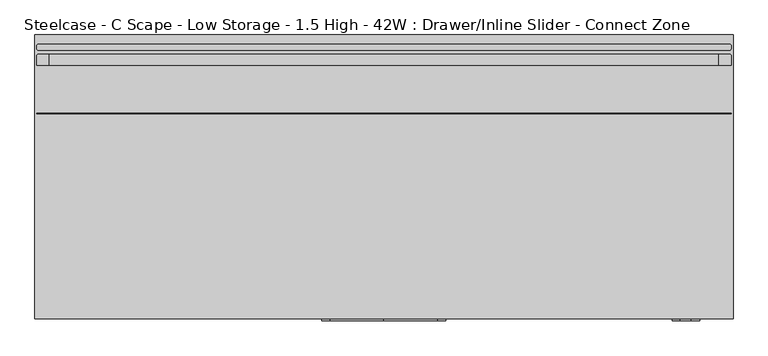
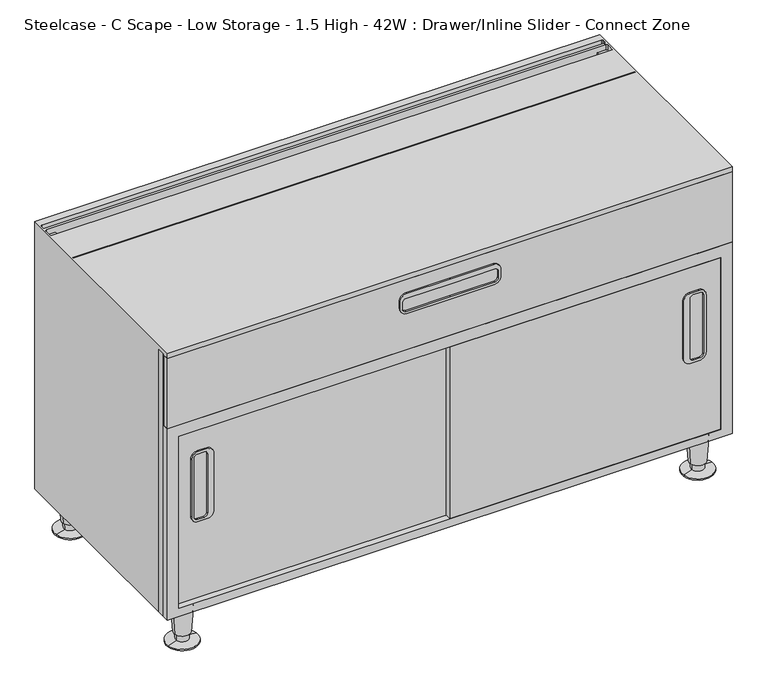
"""IFC4 building model written with IfcOpenShell, lengths in millimetres: furniture geometry, Steelcase - C Scape - Low Storage - 1.5 High - 42W : Drawer/Inline Slider - Connect Zone."""

import ifcopenshell
import ifcopenshell.guid

model = None  # the IFC model being written
_history = None  # IfcOwnerHistory: only IFC2X3 demands one
_inside = {}  # id of a spatial element -> (the spatial element, [elements in it])
_under = {}  # id of a project, library or spatial element -> (it, [spatial elements below it])
_declared = {}  # id of a project -> (the project, [libraries it declares])
_typed = {}  # id of a type object -> (the type object, [elements of that type])
_made_of = {}  # id of a material, layer set ... -> (it, [elements and type objects made of it])


def new_model(schema):
    """Start an empty IFC model of exactly this schema.

    Asked for "IFC4X3", IfcOpenShell would pick the latest addendum, in which some entities
    have other attributes; the version numbers below select the first issue.
    IFC2X3 requires an IfcOwnerHistory on every rooted entity: one is made here for all.
    """
    global model, _history
    if schema == "IFC4X3":
        model = ifcopenshell.file(schema_version=(4, 3, 0, 0))
    else:
        model = ifcopenshell.file(schema=schema)
    _inside.clear()
    _under.clear()
    _declared.clear()
    _typed.clear()
    _made_of.clear()
    _history = None
    if model.schema == "IFC2X3":
        org = make("IfcOrganization", Name="unknown")
        user = make(
            "IfcPersonAndOrganization",
            ThePerson=make("IfcPerson", FamilyName="unknown"),
            TheOrganization=org,
        )
        app = make(
            "IfcApplication",
            ApplicationDeveloper=org,
            Version="unknown",
            ApplicationFullName="unknown",
            ApplicationIdentifier="unknown",
        )
        _history = make(
            "IfcOwnerHistory",
            OwningUser=user,
            OwningApplication=app,
            ChangeAction="ADDED",
            CreationDate=0,
        )
    return model


def make(cls, **values):
    """One entity of the class cls with the attributes given. An attribute that is None is left unset."""
    return model.create_entity(
        cls, **{name: value for name, value in values.items() if value is not None}
    )


def rooted(cls, **values):
    """An entity with a GlobalId (a new one), such as an element, a storey or a relation."""
    return make(cls, GlobalId=ifcopenshell.guid.new(), OwnerHistory=_history, **values)


def si_unit(unit_type, name, prefix=None):
    """IfcSIUnit, for example si_unit("LENGTHUNIT", "METRE", prefix="MILLI")."""
    return make("IfcSIUnit", UnitType=unit_type, Prefix=prefix, Name=name)


def assignment(units):
    """IfcUnitAssignment: the units of a project."""
    return None if units is None else make("IfcUnitAssignment", Units=units)


def point(xyz):
    """IfcCartesianPoint."""
    return None if xyz is None else make("IfcCartesianPoint", Coordinates=xyz)


def direction(xyz):
    """IfcDirection."""
    return None if xyz is None else make("IfcDirection", DirectionRatios=xyz)


def frame(location, z_axis=None, x_axis=None):
    """IfcAxis2Placement3D, a coordinate frame: its origin and axes. An axis left out is left unset."""
    return make(
        "IfcAxis2Placement3D",
        Location=point(location),
        Axis=direction(z_axis),
        RefDirection=direction(x_axis),
    )


def frame_2d(location, x_axis=None):
    """IfcAxis2Placement2D, a coordinate frame in the plane: its origin and x axis."""
    return make(
        "IfcAxis2Placement2D", Location=point(location), RefDirection=direction(x_axis)
    )


def origin():
    """The frame at (0, 0, 0) with its axes left unset."""
    return frame((0.0, 0.0, 0.0))


def place(relative_to, where):
    """IfcLocalPlacement: puts the frame where relative to a parent placement (None: the world)."""
    return make(
        "IfcLocalPlacement", PlacementRelTo=relative_to, RelativePlacement=where
    )


def context(
    kind, dimensions, precision=None, world=None, true_north=None, identifier=None
):
    """IfcGeometricRepresentationContext, for example the 3D "Model" context."""
    return make(
        "IfcGeometricRepresentationContext",
        ContextIdentifier=identifier,
        ContextType=kind,
        CoordinateSpaceDimension=dimensions,
        Precision=precision,
        WorldCoordinateSystem=world,
        TrueNorth=true_north,
    )


def project(units=None, contexts=None):
    """IfcProject with its units and contexts."""
    return rooted(
        "IfcProject",
        Name="project",
        RepresentationContexts=contexts,
        UnitsInContext=assignment(units),
    )


def spatial(cls, under=None, at=None, **own):
    """A site, building, storey or space (cls), placed at a placement, below another one or the project."""
    s = rooted(cls, ObjectPlacement=at, **own)
    if under is not None:
        _under.setdefault(under.id(), (under, []))[1].append(s)
    return s


def polyline(points):
    """IfcPolyline through the points."""
    return make("IfcPolyline", Points=[point(p) for p in points])


def circle_curve(where, radius):
    """IfcCircle in the frame where."""
    return make("IfcCircle", Position=where, Radius=radius)


def trimmed(basis, trim1, trim2, sense, master):
    """IfcTrimmedCurve: the piece of a basis curve between two trims."""
    return make(
        "IfcTrimmedCurve",
        BasisCurve=basis,
        Trim1=trim1,
        Trim2=trim2,
        SenseAgreement=sense,
        MasterRepresentation=master,
    )


def segment(curve, same_sense, transition):
    """IfcCompositeCurveSegment."""
    return make(
        "IfcCompositeCurveSegment",
        Transition=transition,
        SameSense=same_sense,
        ParentCurve=curve,
    )


def composite_curve(segments, self_intersect=None):
    """IfcCompositeCurve: segments joined end to end."""
    return make("IfcCompositeCurve", Segments=segments, SelfIntersect=self_intersect)


def outline(outer, holes=None, kind="AREA"):
    """IfcArbitraryClosedProfileDef: a profile drawn as a closed curve; with holes, ...WithVoids."""
    if holes is None:
        return make("IfcArbitraryClosedProfileDef", ProfileType=kind, OuterCurve=outer)
    return make(
        "IfcArbitraryProfileDefWithVoids",
        ProfileType=kind,
        OuterCurve=outer,
        InnerCurves=holes,
    )


def extrude(swept, where, along, depth):
    """IfcExtrudedAreaSolid: the profile swept, set in the frame where, extruded along a direction by depth."""
    return make(
        "IfcExtrudedAreaSolid",
        SweptArea=swept,
        Position=where,
        ExtrudedDirection=direction(along),
        Depth=depth,
    )


def shape(context_of_items, identifier, shape_type, items):
    """IfcShapeRepresentation: the items that make up one representation, for example the "Body"."""
    return make(
        "IfcShapeRepresentation",
        ContextOfItems=context_of_items,
        RepresentationIdentifier=identifier,
        RepresentationType=shape_type,
        Items=items,
    )


def source(mapping_origin, context_of_items, identifier, shape_type, items):
    """IfcRepresentationMap: a shape defined once, which mapped items show again and again."""
    return make(
        "IfcRepresentationMap",
        MappingOrigin=mapping_origin,
        MappedRepresentation=shape(context_of_items, identifier, shape_type, items),
    )


def transform(
    local_origin,
    x_axis=None,
    y_axis=None,
    z_axis=None,
    scale=None,
    scale2=None,
    scale3=None,
    uniform=True,
):
    """IfcCartesianTransformationOperator3D, or its non-uniform kind. x_axis, y_axis, z_axis: its Axis1, 2, 3."""
    if uniform:
        return make(
            "IfcCartesianTransformationOperator3D",
            Axis1=direction(x_axis),
            Axis2=direction(y_axis),
            LocalOrigin=point(local_origin),
            Scale=scale,
            Axis3=direction(z_axis),
        )
    return make(
        "IfcCartesianTransformationOperator3DnonUniform",
        Axis1=direction(x_axis),
        Axis2=direction(y_axis),
        LocalOrigin=point(local_origin),
        Scale=scale,
        Axis3=direction(z_axis),
        Scale2=scale2,
        Scale3=scale3,
    )


def mapped(mapping_source, mapping_target):
    """IfcMappedItem: shows the shape of a source again, moved by a transform."""
    return make(
        "IfcMappedItem", MappingSource=mapping_source, MappingTarget=mapping_target
    )


def made_of(thing, what):
    """Note that an element or type object is made of a material, layer set ...; save() writes the relation."""
    if what is not None:
        _made_of.setdefault(what.id(), (what, []))[1].append(thing)
    return thing


def element(
    cls,
    number,
    at=None,
    inside=None,
    cuts=None,
    type_object=None,
    material=None,
    context=None,
    identifier="Body",
    shape_type=None,
    held_by="IfcProductDefinitionShape",
    body=None,
    shapes=None,
    **own,
):
    """One element of the class cls, such as IfcWall. Its Tag is "e" and its number.

    at: its placement. inside: the storey or other place that contains it. cuts: it is an
    opening in that element (IfcRelVoidsElement). A single representation is given by context,
    identifier, shape_type and body (its items); several are given by shapes. held_by: the class
    of the entity that holds the representations. save() writes the other relations.
    """
    e = rooted(cls, Tag="e%d" % number, ObjectPlacement=at, **own)
    if body is not None:
        shapes = [shape(context, identifier, shape_type, body)]
    if shapes is not None:
        e.Representation = make(held_by, Representations=shapes)
    if inside is not None:
        _inside.setdefault(inside.id(), (inside, []))[1].append(e)
    if cuts is not None:
        rooted(
            "IfcRelVoidsElement", RelatingBuildingElement=cuts, RelatedOpeningElement=e
        )
    if type_object is not None:
        _typed.setdefault(type_object.id(), (type_object, []))[1].append(e)
    return made_of(e, material)


def aggregate(whole, parts):
    """IfcRelAggregates: a whole, such as a stair, and the parts it consists of."""
    return rooted("IfcRelAggregates", RelatingObject=whole, RelatedObjects=parts)


def save(model, path):
    """Write the relations noted so far, then the file.

    IfcRelAggregates (storeys below a building ...), IfcRelContainedInSpatialStructure (elements
    in a storey), IfcRelDefinesByType, IfcRelAssociatesMaterial and IfcRelDeclares: one each for
    every whole, place, type object, material and project.
    """
    for whole, parts in _under.values():
        aggregate(whole, parts)
    for where, things in _inside.values():
        rooted(
            "IfcRelContainedInSpatialStructure",
            RelatedElements=things,
            RelatingStructure=where,
        )
    for kind, things in _typed.values():
        rooted("IfcRelDefinesByType", RelatedObjects=things, RelatingType=kind)
    for what, things in _made_of.values():
        rooted("IfcRelAssociatesMaterial", RelatedObjects=things, RelatingMaterial=what)
    for by, libraries in _declared.values():
        rooted("IfcRelDeclares", RelatingContext=by, RelatedDefinitions=libraries)
    model.write(path)


def plane_surface(at):
    """IfcPlane: the flat surface through the origin of the frame at, square to its z axis."""
    return make("IfcPlane", Position=at)


def cylinder_surface(at, radius):
    """IfcCylindricalSurface: all points at the distance radius from the z axis of the frame at."""
    return make("IfcCylindricalSurface", Position=at, Radius=radius)


def revolved_surface(curve, axis_point, axis_direction):
    """IfcSurfaceOfRevolution: the curve turned about the line through axis_point along axis_direction."""
    return make(
        "IfcSurfaceOfRevolution",
        SweptCurve=make("IfcArbitraryOpenProfileDef", ProfileType="CURVE", Curve=curve),
        AxisPosition=make("IfcAxis1Placement", Location=point(axis_point), Axis=direction(axis_direction)),
    )


def advanced_brep(points, edges, surfaces, faces):
    """IfcAdvancedBrep: a solid bounded by faces that lie on surfaces and meet in shared edges.

    An edge is (start, end): straight between two places in points (the first is 0);
    or (start, end, curve); or (start, end, curve, False) where it runs against its curve.
    A face is (place in surfaces, loops), or (place, loops, False) where it looks against
    its surface's normal. A loop lists edges by number (the first is 1), with a minus sign
    where the edge is run from its end to its start. The first loop is the outer one.
    """
    corners = [point(p) for p in points]
    vertices = [make("IfcVertexPoint", VertexGeometry=c) for c in corners]
    made = []
    for start, end, *more in edges:
        made.append(
            make(
                "IfcEdgeCurve",
                EdgeStart=vertices[start],
                EdgeEnd=vertices[end],
                EdgeGeometry=more[0] if more else make("IfcPolyline", Points=[corners[start], corners[end]]),
                SameSense=more[1] if len(more) > 1 else True,
            )
        )
    hull = []
    for where, loops, *sense in faces:
        bounds = []
        for j, loop in enumerate(loops):
            ring = [make("IfcOrientedEdge", EdgeElement=made[abs(k) - 1], Orientation=k > 0) for k in loop]
            bounds.append(
                make(
                    "IfcFaceOuterBound" if j == 0 else "IfcFaceBound",
                    Bound=make("IfcEdgeLoop", EdgeList=ring),
                    Orientation=True,
                )
            )
        hull.append(make("IfcAdvancedFace", Bounds=bounds, FaceSurface=surfaces[where], SameSense=sense[0] if sense else True))
    return make("IfcAdvancedBrep", Outer=make("IfcClosedShell", CfsFaces=hull))


def steelcase_c_scape_low_storage_1_5_high_42w_drawer_inline_c9c882e9(model_context):
    return source(origin(), model_context, "Body", "SolidModel", [
        extrude(outline(composite_curve([segment(polyline([(373.5963095, 972.3248301), (259.2993979, 972.3248301)]), True, "CONTINUOUS"), segment(trimmed(circle_curve(frame_2d((259.2993979, 985.0263804)), 12.7015503), [point((259.2993979, 972.3248301))], [point((246.5978477, 985.0263804))], False, "CARTESIAN"), True, "CONTINUOUS"), segment(polyline([(246.5978477, 985.0263804), (246.5978477, 1001.9160471)]), True, "CONTINUOUS"), segment(trimmed(circle_curve(frame_2d((259.2970725, 1001.9160471)), 12.6992249), [point((246.5978477, 1001.9160471))], [point((259.2970725, 1014.615272))], False, "CARTESIAN"), True, "CONTINUOUS"), segment(polyline([(259.2970725, 1014.615272), (373.5986349, 1014.615272)]), True, "CONTINUOUS"), segment(trimmed(circle_curve(frame_2d((373.5986349, 1001.9160471)), 12.6992249), [point((373.5986349, 1014.615272))], [point((386.2978598, 1001.9160471))], False, "CARTESIAN"), True, "CONTINUOUS"), segment(polyline([(386.2978598, 1001.9160471), (386.2978598, 985.0263804)]), True, "CONTINUOUS"), segment(trimmed(circle_curve(frame_2d((373.5963095, 985.0263804)), 12.7015503), [point((386.2978598, 985.0263804))], [point((373.5963095, 972.3248301))], False, "CARTESIAN"), True, "CONTINUOUS")], self_intersect=False), holes=[composite_curve([segment(polyline([(257.7449507, 984.3915354), (375.0960362, 984.3915354)]), True, "CONTINUOUS"), segment(trimmed(circle_curve(frame_2d((375.0960362, 990.7399851)), 6.3484497), [point((375.0960362, 984.3915354))], [point((381.444486, 990.7399851))], True, "CARTESIAN"), True, "CONTINUOUS"), segment(polyline([(381.444486, 990.7399851), (381.444486, 1003.4415354)]), True, "CONTINUOUS"), segment(trimmed(circle_curve(frame_2d((375.0960362, 1003.4415354)), 6.3484497), [point((381.444486, 1003.4415354))], [point((375.0960362, 1009.7899851))], True, "CARTESIAN"), True, "CONTINUOUS"), segment(polyline([(375.0960362, 1009.7899851), (257.7449507, 1009.7899851)]), True, "CONTINUOUS"), segment(trimmed(circle_curve(frame_2d((257.7449507, 1003.4415354)), 6.3484497), [point((257.7449507, 1009.7899851))], [point((251.396501, 1003.4415354))], True, "CARTESIAN"), True, "CONTINUOUS"), segment(polyline([(251.396501, 1003.4415354), (251.396501, 990.7399851)]), True, "CONTINUOUS"), segment(trimmed(circle_curve(frame_2d((257.7449507, 990.7399851)), 6.3484497), [point((251.396501, 990.7399851))], [point((257.7449507, 984.3915354))], True, "CARTESIAN"), True, "CONTINUOUS")], self_intersect=False)]), frame((0.0, -436.1123329, 0.0), z_axis=(0.0, 1.0, 0.0), x_axis=(0.0, 0.0, 1.0)), (0.0, 0.0, 1.0), 3.0423329),
        extrude(outline(composite_curve([segment(trimmed(circle_curve(frame_2d((373.5963095, 79.8686196)), 12.7015503), [point((373.5963095, 92.5701699))], [point((386.2978598, 79.8686196))], False, "CARTESIAN"), True, "CONTINUOUS"), segment(polyline([(386.2978598, 79.8686196), (386.2978598, 62.9789529)]), True, "CONTINUOUS"), segment(trimmed(circle_curve(frame_2d((373.5986349, 62.9789529)), 12.6992249), [point((386.2978598, 62.9789529))], [point((373.5986349, 50.279728))], False, "CARTESIAN"), True, "CONTINUOUS"), segment(polyline([(373.5986349, 50.279728), (259.2970725, 50.279728)]), True, "CONTINUOUS"), segment(trimmed(circle_curve(frame_2d((259.2970725, 62.9789529)), 12.6992249), [point((259.2970725, 50.279728))], [point((246.5978477, 62.9789529))], False, "CARTESIAN"), True, "CONTINUOUS"), segment(polyline([(246.5978477, 62.9789529), (246.5978477, 79.8686196)]), True, "CONTINUOUS"), segment(trimmed(circle_curve(frame_2d((259.2993979, 79.8686196)), 12.7015503), [point((246.5978477, 79.8686196))], [point((259.2993979, 92.5701699))], False, "CARTESIAN"), True, "CONTINUOUS"), segment(polyline([(259.2993979, 92.5701699), (373.5963095, 92.5701699)]), True, "CONTINUOUS")], self_intersect=False), holes=[composite_curve([segment(trimmed(circle_curve(frame_2d((257.7449507, 74.1550149)), 6.3484497), [point((257.7449507, 80.5034646))], [point((251.396501, 74.1550149))], True, "CARTESIAN"), True, "CONTINUOUS"), segment(polyline([(251.396501, 74.1550149), (251.396501, 61.4534646)]), True, "CONTINUOUS"), segment(trimmed(circle_curve(frame_2d((257.7449507, 61.4534646)), 6.3484497), [point((251.396501, 61.4534646))], [point((257.7449507, 55.1050149))], True, "CARTESIAN"), True, "CONTINUOUS"), segment(polyline([(257.7449507, 55.1050149), (375.0960362, 55.1050149)]), True, "CONTINUOUS"), segment(trimmed(circle_curve(frame_2d((375.0960362, 61.4534646)), 6.3484497), [point((375.0960362, 55.1050149))], [point((381.444486, 61.4534646))], True, "CARTESIAN"), True, "CONTINUOUS"), segment(polyline([(381.444486, 61.4534646), (381.444486, 74.1550149)]), True, "CONTINUOUS"), segment(trimmed(circle_curve(frame_2d((375.0960362, 74.1550149)), 6.3484497), [point((381.444486, 74.1550149))], [point((375.0960362, 80.5034646))], True, "CARTESIAN"), True, "CONTINUOUS"), segment(polyline([(375.0960362, 80.5034646), (257.7449507, 80.5034646)]), True, "CONTINUOUS")], self_intersect=False)]), frame((0.0, -424.6923408, 0.0), z_axis=(0.0, 1.0, 0.0), x_axis=(0.0, 0.0, 1.0)), (0.0, 0.0, 1.0), 3.048),
        extrude(outline(polyline([(76.1999955, 0.0), (76.1999955, 1065.53), (458.7875121, 1065.53), (458.7875121, 0.0), (76.1999955, 0.0)]), holes=[polyline([(92.7100024, 1043.5617285), (92.7100024, 21.3382324), (435.8005068, 21.3382324), (435.8005068, 1043.5617285), (92.7100024, 1043.5617285)])]), frame((0.0, -433.07, 0.0), z_axis=(0.0, 1.0, 0.0), x_axis=(0.0, 0.0, 1.0)), (0.0, 0.0, 1.0), 13.7215265),
        extrude(outline(polyline([(599.44, 532.2710512), (599.44, 0.0), (76.1999955, 0.0), (76.1999955, 1065.53), (599.44, 1065.53), (599.44, 532.2710512)]), holes=[polyline([(92.7100024, 1043.5617285), (92.7100024, 21.3382324), (582.93, 21.3382324), (582.93, 1043.5617285), (92.7100024, 1043.5617285)])]), frame((0.0, -419.3484735, 0.0), z_axis=(0.0, 1.0, 0.0), x_axis=(0.0, 0.0, 1.0)), (0.0, 0.0, 1.0), 14.9862946),
        extrude(outline(composite_curve([segment(trimmed(circle_curve(frame_2d((560.7050073, 450.2147442)), 12.7), [point((573.4050073, 450.2147442))], [point((560.7050073, 437.5147442))], False, "CARTESIAN"), True, "CONTINUOUS"), segment(polyline([(560.7050073, 437.5147442), (546.1000363, 437.5147442)]), True, "CONTINUOUS"), segment(trimmed(circle_curve(frame_2d((546.1000363, 450.2147442)), 12.7), [point((546.1000363, 437.5147442))], [point((533.4000363, 450.2147442))], False, "CARTESIAN"), True, "CONTINUOUS"), segment(polyline([(533.4000363, 450.2147442), (533.4000363, 532.4475), (533.4000363, 614.6802558)]), True, "CONTINUOUS"), segment(trimmed(circle_curve(frame_2d((546.1000363, 614.6802558)), 12.7), [point((533.4000363, 614.6802558))], [point((546.1000363, 627.3802558))], False, "CARTESIAN"), True, "CONTINUOUS"), segment(polyline([(546.1000363, 627.3802558), (560.7050073, 627.3802558)]), True, "CONTINUOUS"), segment(trimmed(circle_curve(frame_2d((560.7050073, 614.6802558)), 12.7), [point((560.7050073, 627.3802558))], [point((573.4050073, 614.6802558))], False, "CARTESIAN"), True, "CONTINUOUS"), segment(polyline([(573.4050073, 614.6802558), (573.4050073, 532.4475), (573.4050073, 450.2147442)]), True, "CONTINUOUS")], self_intersect=False), holes=[composite_curve([segment(trimmed(circle_curve(frame_2d((557.2760257, 448.6923565)), 6.35), [point((557.2760257, 442.3423565))], [point((563.6260257, 448.6923565))], True, "CARTESIAN"), True, "CONTINUOUS"), segment(polyline([(563.6260257, 448.6923565), (563.6260257, 532.4475), (563.6260257, 616.2026435)]), True, "CONTINUOUS"), segment(trimmed(circle_curve(frame_2d((557.2760257, 616.2026435)), 6.35), [point((563.6260257, 616.2026435))], [point((557.2760257, 622.5526435))], True, "CARTESIAN"), True, "CONTINUOUS"), segment(polyline([(557.2760257, 622.5526435), (544.5760136, 622.5526435)]), True, "CONTINUOUS"), segment(trimmed(circle_curve(frame_2d((544.5760136, 616.2026435)), 6.35), [point((544.5760136, 622.5526435))], [point((538.2260136, 616.2026435))], True, "CARTESIAN"), True, "CONTINUOUS"), segment(polyline([(538.2260136, 616.2026435), (538.2260136, 532.4475), (538.2260136, 448.6923565)]), True, "CONTINUOUS"), segment(trimmed(circle_curve(frame_2d((544.5760136, 448.6923565)), 6.35), [point((538.2260136, 448.6923565))], [point((544.5760136, 442.3423565))], True, "CARTESIAN"), True, "CONTINUOUS"), segment(polyline([(544.5760136, 442.3423565), (557.2760257, 442.3423565)]), True, "CONTINUOUS")], self_intersect=False)]), frame((0.0, -436.118, 0.0), z_axis=(0.0, 1.0, 0.0), x_axis=(0.0, 0.0, 1.0)), (0.0, 0.0, 1.0), 3.048),
        advanced_brep(
        [(1038.2598695, -31.5218435, 76.2), (1000.5981305, -37.2840847, 76.2), (1019.429, -34.4029641, 76.2), (1034.3095214, -32.1262463, 19.05), (1004.5484786, -36.6796819, 19.05), (1031.8799345, -32.4979728, 19.05), (1006.9780655, -36.3079555, 19.05), (1031.191165, -32.6033544, 5.7545598), (1007.666835, -36.2025738, 5.7545598), (1048.5400485, -29.9489775, 2.5119506), (990.3179515, -38.8569507, 2.5119506), (1048.5400485, -29.9489775, 0.0), (990.3179515, -38.8569507, 0.0), (1019.429, -34.4029641, 0.0)],
        [
            (0, 1, circle_curve(frame((1019.429, -34.4029641, 76.2), z_axis=(0.0, 0.0, 1.0), x_axis=(0.0, -1.0, 0.0)), 19.05)),
            (1, 2),
            (2, 0),
            (1, 0, circle_curve(frame((1019.429, -34.4029641, 76.2), z_axis=(0.0, 0.0, 1.0), x_axis=(0.0, -1.0, 0.0)), 19.05)),
            (3, 4, circle_curve(frame((1019.429, -34.4029641, 19.05), z_axis=(0.0, 0.0, 1.0), x_axis=(0.0, -1.0, 0.0)), 15.0536827)),
            (4, 1),
            (0, 3),
            (4, 3, circle_curve(frame((1019.429, -34.4029641, 19.05), z_axis=(0.0, 0.0, 1.0), x_axis=(0.0, -1.0, 0.0)), 15.0536827)),
            (5, 6, circle_curve(frame((1019.429, -34.4029641, 19.05), z_axis=(0.0, 0.0, 1.0), x_axis=(0.0, -1.0, 0.0)), 12.5958232)),
            (6, 4),
            (3, 5),
            (6, 5, circle_curve(frame((1019.429, -34.4029641, 19.05), z_axis=(0.0, 0.0, 1.0), x_axis=(0.0, -1.0, 0.0)), 12.5958232)),
            (7, 8, circle_curve(frame((1019.429, -34.4029641, 5.7545598), z_axis=(0.0, 0.0, 1.0), x_axis=(0.0, -1.0, 0.0)), 11.8990387)),
            (8, 6),
            (5, 7),
            (8, 7, circle_curve(frame((1019.429, -34.4029641, 5.7545598), z_axis=(0.0, 0.0, 1.0), x_axis=(0.0, -1.0, 0.0)), 11.8990387)),
            (9, 10, circle_curve(frame((1019.429, -34.4029641, 2.5119506), z_axis=(0.0, 0.0, 1.0), x_axis=(0.0, -1.0, 0.0)), 29.4498071)),
            (10, 8),
            (7, 9),
            (10, 9, circle_curve(frame((1019.429, -34.4029641, 2.5119506), z_axis=(0.0, 0.0, 1.0), x_axis=(0.0, -1.0, 0.0)), 29.4498071)),
            (11, 12, circle_curve(frame((1019.429, -34.4029641, 0.0), z_axis=(0.0, 0.0, 1.0), x_axis=(0.0, -1.0, 0.0)), 29.4498071)),
            (12, 10),
            (9, 11),
            (12, 11, circle_curve(frame((1019.429, -34.4029641, 0.0), z_axis=(0.0, 0.0, 1.0), x_axis=(0.0, -1.0, 0.0)), 29.4498071)),
            (13, 12),
            (11, 13),
        ],
        [
            plane_surface(frame((1019.429, -34.4029641, 76.2), z_axis=(0.0, 0.0, 1.0), x_axis=(0.0, -1.0, 0.0))),
            revolved_surface(polyline([(1019.429, -53.4529641, 76.2), (1019.429, -49.4566468, 19.05)]), (1019.429, -34.4029641, 25.4), (0.0, 0.0, -1.0)),
            plane_surface(frame((1019.429, -34.4029641, 19.05), z_axis=(0.0, 0.0, -1.0), x_axis=(0.0, -1.0, 0.0))),
            revolved_surface(polyline([(1019.429, -46.9987873, 19.05), (1019.429, -46.3020028, 5.7545598)]), (1019.429, -34.4029641, 25.4), (0.0, 0.0, -1.0)),
            revolved_surface(polyline([(1019.429, -46.3020028, 5.7545598), (1019.429, -63.8527712, 2.5119506)]), (1019.429, -34.4029641, 25.4), (0.0, 0.0, -1.0)),
            cylinder_surface(frame((1019.429, -34.4029641, 25.4), z_axis=(0.0, 0.0, -1.0), x_axis=(0.0, -1.0, 0.0)), 29.4498071),
            plane_surface(frame((1019.429, -34.4029641, 0.0), z_axis=(0.0, 0.0, -1.0), x_axis=(0.0, -1.0, 0.0))),
        ],
        [
            (0, [[1, 2, 3]]),
            (0, [[4, -3, -2]]),
            (1, [[5, 6, -1, 7]]),
            (1, [[8, -7, -4, -6]]),
            (2, [[9, 10, -5, 11]]),
            (2, [[12, -11, -8, -10]]),
            (3, [[13, 14, -9, 15]]),
            (3, [[16, -15, -12, -14]]),
            (4, [[17, 18, -13, 19]]),
            (4, [[20, -19, -16, -18]]),
            (5, [[21, 22, -17, 23]]),
            (5, [[24, -23, -20, -22]]),
            (6, [[25, -21, 26]]),
            (6, [[-26, -24, -25]]),
        ],
    ),
        advanced_brep(
        [(1038.2598695, -397.1702762, 76.2), (1000.5981305, -402.9325174, 76.2), (1019.429, -400.0513968, 76.2), (1034.3095214, -397.774679, 19.05), (1004.5484786, -402.3281146, 19.05), (1031.8799345, -398.1464055, 19.05), (1006.9780655, -401.9563882, 19.05), (1031.191165, -398.2517871, 5.7545598), (1007.666835, -401.8510065, 5.7545598), (1048.5400485, -395.5974102, 2.5119506), (990.3179515, -404.5053834, 2.5119506), (1048.5400485, -395.5974102, 0.0), (990.3179515, -404.5053834, 0.0), (1019.429, -400.0513968, 0.0)],
        [
            (0, 1, circle_curve(frame((1019.429, -400.0513968, 76.2), z_axis=(0.0, 0.0, 1.0), x_axis=(0.0, -1.0, 0.0)), 19.05)),
            (1, 2),
            (2, 0),
            (1, 0, circle_curve(frame((1019.429, -400.0513968, 76.2), z_axis=(0.0, 0.0, 1.0), x_axis=(0.0, -1.0, 0.0)), 19.05)),
            (3, 4, circle_curve(frame((1019.429, -400.0513968, 19.05), z_axis=(0.0, 0.0, 1.0), x_axis=(0.0, -1.0, 0.0)), 15.0536827)),
            (4, 1),
            (0, 3),
            (4, 3, circle_curve(frame((1019.429, -400.0513968, 19.05), z_axis=(0.0, 0.0, 1.0), x_axis=(0.0, -1.0, 0.0)), 15.0536827)),
            (5, 6, circle_curve(frame((1019.429, -400.0513968, 19.05), z_axis=(0.0, 0.0, 1.0), x_axis=(0.0, -1.0, 0.0)), 12.5958232)),
            (6, 4),
            (3, 5),
            (6, 5, circle_curve(frame((1019.429, -400.0513968, 19.05), z_axis=(0.0, 0.0, 1.0), x_axis=(0.0, -1.0, 0.0)), 12.5958232)),
            (7, 8, circle_curve(frame((1019.429, -400.0513968, 5.7545598), z_axis=(0.0, 0.0, 1.0), x_axis=(0.0, -1.0, 0.0)), 11.8990387)),
            (8, 6),
            (5, 7),
            (8, 7, circle_curve(frame((1019.429, -400.0513968, 5.7545598), z_axis=(0.0, 0.0, 1.0), x_axis=(0.0, -1.0, 0.0)), 11.8990387)),
            (9, 10, circle_curve(frame((1019.429, -400.0513968, 2.5119506), z_axis=(0.0, 0.0, 1.0), x_axis=(0.0, -1.0, 0.0)), 29.4498071)),
            (10, 8),
            (7, 9),
            (10, 9, circle_curve(frame((1019.429, -400.0513968, 2.5119506), z_axis=(0.0, 0.0, 1.0), x_axis=(0.0, -1.0, 0.0)), 29.4498071)),
            (11, 12, circle_curve(frame((1019.429, -400.0513968, 0.0), z_axis=(0.0, 0.0, 1.0), x_axis=(0.0, -1.0, 0.0)), 29.4498071)),
            (12, 10),
            (9, 11),
            (12, 11, circle_curve(frame((1019.429, -400.0513968, 0.0), z_axis=(0.0, 0.0, 1.0), x_axis=(0.0, -1.0, 0.0)), 29.4498071)),
            (13, 12),
            (11, 13),
        ],
        [
            plane_surface(frame((1019.429, -400.0513968, 76.2), z_axis=(0.0, 0.0, 1.0), x_axis=(0.0, -1.0, 0.0))),
            revolved_surface(polyline([(1019.429, -419.1013968, 76.2), (1019.429, -415.1050795, 19.05)]), (1019.429, -400.0513968, 25.4), (0.0, 0.0, -1.0)),
            plane_surface(frame((1019.429, -400.0513968, 19.05), z_axis=(0.0, 0.0, -1.0), x_axis=(0.0, -1.0, 0.0))),
            revolved_surface(polyline([(1019.429, -412.64722, 19.05), (1019.429, -411.9504355, 5.7545598)]), (1019.429, -400.0513968, 25.4), (0.0, 0.0, -1.0)),
            revolved_surface(polyline([(1019.429, -411.9504355, 5.7545598), (1019.429, -429.5012039, 2.5119506)]), (1019.429, -400.0513968, 25.4), (0.0, 0.0, -1.0)),
            cylinder_surface(frame((1019.429, -400.0513968, 25.4), z_axis=(0.0, 0.0, -1.0), x_axis=(0.0, -1.0, 0.0)), 29.4498071),
            plane_surface(frame((1019.429, -400.0513968, 0.0), z_axis=(0.0, 0.0, -1.0), x_axis=(0.0, -1.0, 0.0))),
        ],
        [
            (0, [[1, 2, 3]]),
            (0, [[4, -3, -2]]),
            (1, [[5, 6, -1, 7]]),
            (1, [[8, -7, -4, -6]]),
            (2, [[9, 10, -5, 11]]),
            (2, [[12, -11, -8, -10]]),
            (3, [[13, 14, -9, 15]]),
            (3, [[16, -15, -12, -14]]),
            (4, [[17, 18, -13, 19]]),
            (4, [[20, -19, -16, -18]]),
            (5, [[21, 22, -17, 23]]),
            (5, [[24, -23, -20, -22]]),
            (6, [[25, -21, 26]]),
            (6, [[-26, -24, -25]]),
        ],
    ),
        advanced_brep(
        [(65.5422821, -397.1702762, 76.2), (27.8805432, -402.9325174, 76.2), (46.7114126, -400.0513968, 76.2), (61.5919341, -397.774679, 19.05), (31.8308912, -402.3281146, 19.05), (59.1623471, -398.1464055, 19.05), (34.2604781, -401.9563882, 19.05), (58.4735776, -398.2517871, 5.7545598), (34.9492476, -401.8510065, 5.7545598), (75.8224611, -395.5974102, 2.5119506), (17.6003641, -404.5053834, 2.5119506), (75.8224611, -395.5974102, 0.0), (17.6003641, -404.5053834, 0.0), (46.7114126, -400.0513968, 0.0)],
        [
            (0, 1, circle_curve(frame((46.7114126, -400.0513968, 76.2), z_axis=(0.0, 0.0, 1.0), x_axis=(0.0, -1.0, 0.0)), 19.05)),
            (1, 2),
            (2, 0),
            (1, 0, circle_curve(frame((46.7114126, -400.0513968, 76.2), z_axis=(0.0, 0.0, 1.0), x_axis=(0.0, -1.0, 0.0)), 19.05)),
            (3, 4, circle_curve(frame((46.7114126, -400.0513968, 19.05), z_axis=(0.0, 0.0, 1.0), x_axis=(0.0, -1.0, 0.0)), 15.0536827)),
            (4, 1),
            (0, 3),
            (4, 3, circle_curve(frame((46.7114126, -400.0513968, 19.05), z_axis=(0.0, 0.0, 1.0), x_axis=(0.0, -1.0, 0.0)), 15.0536827)),
            (5, 6, circle_curve(frame((46.7114126, -400.0513968, 19.05), z_axis=(0.0, 0.0, 1.0), x_axis=(0.0, -1.0, 0.0)), 12.5958232)),
            (6, 4),
            (3, 5),
            (6, 5, circle_curve(frame((46.7114126, -400.0513968, 19.05), z_axis=(0.0, 0.0, 1.0), x_axis=(0.0, -1.0, 0.0)), 12.5958232)),
            (7, 8, circle_curve(frame((46.7114126, -400.0513968, 5.7545598), z_axis=(0.0, 0.0, 1.0), x_axis=(0.0, -1.0, 0.0)), 11.8990387)),
            (8, 6),
            (5, 7),
            (8, 7, circle_curve(frame((46.7114126, -400.0513968, 5.7545598), z_axis=(0.0, 0.0, 1.0), x_axis=(0.0, -1.0, 0.0)), 11.8990387)),
            (9, 10, circle_curve(frame((46.7114126, -400.0513968, 2.5119506), z_axis=(0.0, 0.0, 1.0), x_axis=(0.0, -1.0, 0.0)), 29.4498071)),
            (10, 8),
            (7, 9),
            (10, 9, circle_curve(frame((46.7114126, -400.0513968, 2.5119506), z_axis=(0.0, 0.0, 1.0), x_axis=(0.0, -1.0, 0.0)), 29.4498071)),
            (11, 12, circle_curve(frame((46.7114126, -400.0513968, 0.0), z_axis=(0.0, 0.0, 1.0), x_axis=(0.0, -1.0, 0.0)), 29.4498071)),
            (12, 10),
            (9, 11),
            (12, 11, circle_curve(frame((46.7114126, -400.0513968, 0.0), z_axis=(0.0, 0.0, 1.0), x_axis=(0.0, -1.0, 0.0)), 29.4498071)),
            (13, 12),
            (11, 13),
        ],
        [
            plane_surface(frame((46.7114126, -400.0513968, 76.2), z_axis=(0.0, 0.0, 1.0), x_axis=(0.0, -1.0, 0.0))),
            revolved_surface(polyline([(46.7114126, -419.1013968, 76.2), (46.7114126, -415.1050795, 19.05)]), (46.7114126, -400.0513968, 25.4), (0.0, 0.0, -1.0)),
            plane_surface(frame((46.7114126, -400.0513968, 19.05), z_axis=(0.0, 0.0, -1.0), x_axis=(0.0, -1.0, 0.0))),
            revolved_surface(polyline([(46.7114126, -412.64722, 19.05), (46.7114126, -411.9504355, 5.7545598)]), (46.7114126, -400.0513968, 25.4), (0.0, 0.0, -1.0)),
            revolved_surface(polyline([(46.7114126, -411.9504355, 5.7545598), (46.7114126, -429.5012039, 2.5119506)]), (46.7114126, -400.0513968, 25.4), (0.0, 0.0, -1.0)),
            cylinder_surface(frame((46.7114126, -400.0513968, 25.4), z_axis=(0.0, 0.0, -1.0), x_axis=(0.0, -1.0, 0.0)), 29.4498071),
            plane_surface(frame((46.7114126, -400.0513968, 0.0), z_axis=(0.0, 0.0, -1.0), x_axis=(0.0, -1.0, 0.0))),
        ],
        [
            (0, [[1, 2, 3]]),
            (0, [[4, -3, -2]]),
            (1, [[5, 6, -1, 7]]),
            (1, [[8, -7, -4, -6]]),
            (2, [[9, 10, -5, 11]]),
            (2, [[12, -11, -8, -10]]),
            (3, [[13, 14, -9, 15]]),
            (3, [[16, -15, -12, -14]]),
            (4, [[17, 18, -13, 19]]),
            (4, [[20, -19, -16, -18]]),
            (5, [[21, 22, -17, 23]]),
            (5, [[24, -23, -20, -22]]),
            (6, [[25, -21, 26]]),
            (6, [[-26, -24, -25]]),
        ],
    ),
        advanced_brep(
        [(65.5422821, -31.5218435, 76.2), (27.8805432, -37.2840847, 76.2), (46.7114126, -34.4029641, 76.2), (61.5919341, -32.1262463, 19.05), (31.8308912, -36.6796819, 19.05), (59.1623471, -32.4979728, 19.05), (34.2604781, -36.3079555, 19.05), (58.4735776, -32.6033544, 5.7545598), (34.9492476, -36.2025738, 5.7545598), (75.8224611, -29.9489775, 2.5119506), (17.6003641, -38.8569507, 2.5119506), (75.8224611, -29.9489775, 0.0), (17.6003641, -38.8569507, 0.0), (46.7114126, -34.4029641, 0.0)],
        [
            (0, 1, circle_curve(frame((46.7114126, -34.4029641, 76.2), z_axis=(0.0, 0.0, 1.0), x_axis=(0.0, -1.0, 0.0)), 19.05)),
            (1, 2),
            (2, 0),
            (1, 0, circle_curve(frame((46.7114126, -34.4029641, 76.2), z_axis=(0.0, 0.0, 1.0), x_axis=(0.0, -1.0, 0.0)), 19.05)),
            (3, 4, circle_curve(frame((46.7114126, -34.4029641, 19.05), z_axis=(0.0, 0.0, 1.0), x_axis=(0.0, -1.0, 0.0)), 15.0536827)),
            (4, 1),
            (0, 3),
            (4, 3, circle_curve(frame((46.7114126, -34.4029641, 19.05), z_axis=(0.0, 0.0, 1.0), x_axis=(0.0, -1.0, 0.0)), 15.0536827)),
            (5, 6, circle_curve(frame((46.7114126, -34.4029641, 19.05), z_axis=(0.0, 0.0, 1.0), x_axis=(0.0, -1.0, 0.0)), 12.5958232)),
            (6, 4),
            (3, 5),
            (6, 5, circle_curve(frame((46.7114126, -34.4029641, 19.05), z_axis=(0.0, 0.0, 1.0), x_axis=(0.0, -1.0, 0.0)), 12.5958232)),
            (7, 8, circle_curve(frame((46.7114126, -34.4029641, 5.7545598), z_axis=(0.0, 0.0, 1.0), x_axis=(0.0, -1.0, 0.0)), 11.8990387)),
            (8, 6),
            (5, 7),
            (8, 7, circle_curve(frame((46.7114126, -34.4029641, 5.7545598), z_axis=(0.0, 0.0, 1.0), x_axis=(0.0, -1.0, 0.0)), 11.8990387)),
            (9, 10, circle_curve(frame((46.7114126, -34.4029641, 2.5119506), z_axis=(0.0, 0.0, 1.0), x_axis=(0.0, -1.0, 0.0)), 29.4498071)),
            (10, 8),
            (7, 9),
            (10, 9, circle_curve(frame((46.7114126, -34.4029641, 2.5119506), z_axis=(0.0, 0.0, 1.0), x_axis=(0.0, -1.0, 0.0)), 29.4498071)),
            (11, 12, circle_curve(frame((46.7114126, -34.4029641, 0.0), z_axis=(0.0, 0.0, 1.0), x_axis=(0.0, -1.0, 0.0)), 29.4498071)),
            (12, 10),
            (9, 11),
            (12, 11, circle_curve(frame((46.7114126, -34.4029641, 0.0), z_axis=(0.0, 0.0, 1.0), x_axis=(0.0, -1.0, 0.0)), 29.4498071)),
            (13, 12),
            (11, 13),
        ],
        [
            plane_surface(frame((46.7114126, -34.4029641, 76.2), z_axis=(0.0, 0.0, 1.0), x_axis=(0.0, -1.0, 0.0))),
            revolved_surface(polyline([(46.7114126, -53.4529641, 76.2), (46.7114126, -49.4566468, 19.05)]), (46.7114126, -34.4029641, 25.4), (0.0, 0.0, -1.0)),
            plane_surface(frame((46.7114126, -34.4029641, 19.05), z_axis=(0.0, 0.0, -1.0), x_axis=(0.0, -1.0, 0.0))),
            revolved_surface(polyline([(46.7114126, -46.9987873, 19.05), (46.7114126, -46.3020028, 5.7545598)]), (46.7114126, -34.4029641, 25.4), (0.0, 0.0, -1.0)),
            revolved_surface(polyline([(46.7114126, -46.3020028, 5.7545598), (46.7114126, -63.8527712, 2.5119506)]), (46.7114126, -34.4029641, 25.4), (0.0, 0.0, -1.0)),
            cylinder_surface(frame((46.7114126, -34.4029641, 25.4), z_axis=(0.0, 0.0, -1.0), x_axis=(0.0, -1.0, 0.0)), 29.4498071),
            plane_surface(frame((46.7114126, -34.4029641, 0.0), z_axis=(0.0, 0.0, -1.0), x_axis=(0.0, -1.0, 0.0))),
        ],
        [
            (0, [[1, 2, 3]]),
            (0, [[4, -3, -2]]),
            (1, [[5, 6, -1, 7]]),
            (1, [[8, -7, -4, -6]]),
            (2, [[9, 10, -5, 11]]),
            (2, [[12, -11, -8, -10]]),
            (3, [[13, 14, -9, 15]]),
            (3, [[16, -15, -12, -14]]),
            (4, [[17, 18, -13, 19]]),
            (4, [[20, -19, -16, -18]]),
            (5, [[21, 22, -17, 23]]),
            (5, [[24, -23, -20, -22]]),
            (6, [[25, -21, 26]]),
            (6, [[-26, -24, -25]]),
        ],
    ),
        advanced_brep(
        [(1062.7272317, -120.6444193, 609.6), (1062.7272317, -119.3775195, 609.6), (1062.7272317, -119.3775195, 599.44), (1062.7272317, -120.6444193, 599.44), (1062.7272317, -46.4703418, 609.6), (1062.7272317, -32.274699, 609.6), (1062.7272317, -32.274699, 599.44), (1062.7272317, -46.4703418, 599.44), (1062.7272317, -20.3138654, 609.6), (1062.7272317, -17.0388453, 609.6), (1062.7272317, -17.0388453, 599.44), (1062.7272317, -20.3138654, 599.44), (1065.53, 0.0055807, 609.6), (1065.53, -433.07, 609.6), (1065.53, -433.07, 599.44), (1065.53, -404.362179, 599.44), (1065.53, -404.362179, 76.2), (1065.53, 0.0055807, 76.2), (0.0, -433.07, 609.6), (-0.012551, 0.0055807, 609.6), (1060.0308823, -29.5783496, 609.6), (2.7826272, -46.4703418, 609.6), (2.7826272, -32.0458511, 609.6), (5.2501287, -29.5783496, 609.6), (1059.7507358, -23.2903613, 609.6), (5.5670648, -23.2903613, 609.6), (2.7826272, -20.5059237, 609.6), (2.7826272, -17.0388453, 609.6), (5.4794022, -14.3420703, 609.6), (1060.0304567, -14.3420703, 609.6), (2.7826272, -119.3775195, 609.6), (2.7826272, -120.6444193, 609.6), (0.0, 0.0055807, 76.2), (648.0775189, 0.0055807, 466.2677968), (416.8174811, 0.0055807, 466.2677968), (416.8174811, 0.0055807, 432.6382043), (532.4475, 0.0055807, 432.6382043), (648.0775189, 0.0055807, 432.6382043), (648.0775189, -9.5194193, 466.2677968), (416.8174811, -9.5194193, 466.2677968), (648.0775189, -9.5194193, 435.8005068), (416.8174811, -9.5194193, 435.8005068), (5.2501287, -29.5783496, 599.44), (21.3382324, -29.5783496, 599.44), (21.3382324, -29.5783496, 458.7875121), (1043.5617285, -29.5783496, 458.7875121), (1043.5617285, -29.5783496, 599.44), (1060.0308823, -29.5783496, 599.44), (1043.5617285, -119.3775195, 599.44), (21.3382324, -119.3775195, 599.44), (21.3382324, -46.4703418, 599.44), (1043.5617285, -46.4703418, 599.44), (1059.7507358, -23.2903613, 599.44), (5.5670648, -23.2903613, 599.44), (2.7826272, -20.5059237, 599.44), (2.7826272, -32.0458511, 599.44), (2.7826272, -46.4703418, 599.44), (2.7826272, -119.3775195, 599.44), (5.4794022, -14.3420703, 599.44), (1060.0304567, -14.3420703, 599.44), (2.7826272, -17.0388453, 599.44), (21.3382324, -120.6444193, 599.44), (2.7826272, -120.6444193, 599.44), (1043.5617285, -120.6444193, 599.44), (21.3382324, -404.362179, 92.7100024), (1043.5617285, -404.362179, 92.7100024), (1043.5617285, -9.5194193, 92.7100024), (21.3382324, -9.5194193, 92.7100024), (0.0, -404.362179, 76.2), (21.3382324, -404.362179, 458.7875121), (21.3382324, -404.362179, 599.44), (0.0, -404.362179, 599.44), (1043.5617285, -404.362179, 599.44), (1043.5617285, -404.362179, 458.7875121), (21.3382324, -404.362179, 435.8005068), (1043.5617285, -404.362179, 435.8005068), (0.0, -433.07, 599.44), (21.3382324, -126.9863574, 599.44), (1043.5617285, -126.9863574, 599.44), (21.3382324, -126.9863574, 458.7875121), (1043.5617285, -126.9863574, 458.7875121), (1043.5617285, -120.6444193, 458.7875121), (21.3382324, -120.6444193, 458.7875121), (21.3382324, -9.5194193, 435.8005068), (1043.5617285, -9.5194193, 435.8005068), (648.0775189, -9.5194193, 432.6382043), (532.4475, -9.5194193, 432.6382043), (416.8174811, -9.5194193, 432.6382043)],
        [
            (0, 1),
            (1, 2),
            (2, 3),
            (3, 0),
            (4, 5),
            (5, 6),
            (6, 7),
            (7, 4),
            (8, 9),
            (9, 10),
            (10, 11),
            (11, 8),
            (12, 13),
            (13, 14),
            (14, 15),
            (15, 16),
            (16, 17),
            (17, 12),
            (18, 13),
            (12, 19),
            (19, 18),
            (20, 5, circle_curve(frame((1060.0308823, -32.274699, 609.6), z_axis=(0.0, 0.0, -1.0), x_axis=(1.0, 0.0, 0.0)), 2.6963494)),
            (4, 21),
            (21, 22),
            (22, 23, circle_curve(frame((5.2501287, -32.0458511, 609.6), z_axis=(0.0, 0.0, -1.0), x_axis=(1.0, 0.0, 0.0)), 2.4675015)),
            (23, 20),
            (8, 24, circle_curve(frame((1059.7507358, -20.3138654, 609.6), z_axis=(0.0, 0.0, -1.0), x_axis=(1.0, 0.0, 0.0)), 2.9764959)),
            (24, 25),
            (25, 26, circle_curve(frame((5.5670648, -20.5059237, 609.6), z_axis=(0.0, 0.0, -1.0), x_axis=(1.0, 0.0, 0.0)), 2.7844376)),
            (26, 27),
            (27, 28, circle_curve(frame((5.4794022, -17.0388453, 609.6), z_axis=(0.0, 0.0, -1.0), x_axis=(1.0, 0.0, 0.0)), 2.696775)),
            (28, 29),
            (29, 9, circle_curve(frame((1060.0304567, -17.0388453, 609.6), z_axis=(0.0, 0.0, -1.0), x_axis=(1.0, 0.0, 0.0)), 2.696775)),
            (30, 1),
            (0, 31),
            (31, 30),
            (17, 32),
            (32, 19),
            (33, 34),
            (34, 35),
            (35, 36),
            (36, 37),
            (37, 33),
            (33, 38),
            (38, 39),
            (39, 34),
            (38, 40),
            (40, 41),
            (41, 39),
            (23, 42),
            (42, 43),
            (43, 44),
            (44, 45),
            (45, 46),
            (46, 47),
            (47, 20),
            (48, 49),
            (49, 50),
            (50, 51),
            (51, 48),
            (47, 6, circle_curve(frame((1060.0308823, -32.274699, 599.44), z_axis=(0.0, 0.0, -1.0), x_axis=(1.0, 0.0, 0.0)), 2.6963494)),
            (11, 52, circle_curve(frame((1059.7507358, -20.3138654, 599.44), z_axis=(0.0, 0.0, -1.0), x_axis=(1.0, 0.0, 0.0)), 2.9764959)),
            (52, 24),
            (52, 53),
            (53, 25),
            (53, 54, circle_curve(frame((5.5670648, -20.5059237, 599.44), z_axis=(0.0, 0.0, -1.0), x_axis=(1.0, 0.0, 0.0)), 2.7844376)),
            (54, 26),
            (22, 55),
            (55, 42, circle_curve(frame((5.2501287, -32.0458511, 599.44), z_axis=(0.0, 0.0, -1.0), x_axis=(1.0, 0.0, 0.0)), 2.4675015)),
            (7, 51),
            (50, 56),
            (56, 21),
            (30, 57),
            (57, 49),
            (48, 2),
            (28, 58),
            (58, 59),
            (59, 29),
            (59, 10, circle_curve(frame((1060.0304567, -17.0388453, 599.44), z_axis=(0.0, 0.0, -1.0), x_axis=(1.0, 0.0, 0.0)), 2.696775)),
            (27, 60),
            (60, 58, circle_curve(frame((5.4794022, -17.0388453, 599.44), z_axis=(0.0, 0.0, -1.0), x_axis=(1.0, 0.0, 0.0)), 2.696775)),
            (61, 49),
            (57, 62),
            (62, 61),
            (48, 63),
            (63, 3),
            (60, 54),
            (50, 43),
            (55, 56),
            (46, 51),
            (64, 65),
            (65, 66),
            (66, 67),
            (67, 64),
            (16, 68),
            (68, 32),
            (69, 70),
            (70, 71),
            (71, 68),
            (15, 72),
            (72, 73),
            (73, 69),
            (64, 74),
            (74, 75),
            (75, 65),
            (18, 76),
            (76, 14),
            (76, 71),
            (70, 77),
            (77, 78),
            (78, 72),
            (77, 79),
            (79, 80),
            (80, 78),
            (63, 81),
            (81, 82),
            (82, 61),
            (62, 31),
            (44, 82),
            (81, 45),
            (79, 69),
            (73, 80),
            (74, 83),
            (83, 41),
            (40, 84),
            (84, 75),
            (67, 83),
            (84, 66),
            (85, 86),
            (86, 87),
            (87, 41),
            (40, 85),
            (37, 85),
            (36, 86),
            (35, 87),
        ],
        [
            plane_surface(frame((1062.7272317, -120.6444193, 609.6), z_axis=(-1.0, 0.0, 0.0), x_axis=(0.0, 0.0, 1.0))),
            plane_surface(frame((1065.53, -120.6444193, 609.6), z_axis=(1.0, 0.0, 0.0), x_axis=(0.0, 0.0, -1.0))),
            plane_surface(frame((1062.7272317, -120.6444193, 609.6), z_axis=(0.0, 0.0, 1.0), x_axis=(1.0, 0.0, 0.0))),
            plane_surface(frame((1062.7272317, 0.0055807, 609.6), z_axis=(0.0, 1.0, 0.0), x_axis=(1.0, 0.0, 0.0))),
            plane_surface(frame((1062.7272317, 0.0055807, 466.2677968), z_axis=(0.0, 0.0, -1.0), x_axis=(1.0, 0.0, 0.0))),
            plane_surface(frame((1062.7272317, -9.5194193, 466.2677968), z_axis=(0.0, 1.0, 0.0), x_axis=(1.0, 0.0, 0.0))),
            plane_surface(frame((1062.7272317, -29.5783496, 458.7875121), z_axis=(0.0, -1.0, 0.0), x_axis=(1.0, 0.0, 0.0))),
            plane_surface(frame((1062.7272317, -29.5783496, 599.44), z_axis=(0.0, 0.0, -1.0), x_axis=(1.0, 0.0, 0.0))),
            revolved_surface(polyline([(1062.7272317, -32.274699, 599.44), (1062.7272317, -32.274699, 609.6)]), (1060.0308823, -32.274699, 599.44), (0.0, 0.0, -1.0)),
            revolved_surface(polyline([(1062.7272317, -20.3138654, 599.44), (1062.7272317, -20.3138654, 609.6)]), (1059.7507358, -20.3138654, 599.44), (0.0, 0.0, -1.0)),
            plane_surface(frame((1059.7507358, -23.2903613, 609.6), z_axis=(0.0, 1.0, 0.0), x_axis=(0.0, 0.0, -1.0))),
            revolved_surface(polyline([(8.3515024, -20.5059237, 599.44), (8.3515024, -20.5059237, 609.6)]), (5.5670648, -20.5059237, 599.44), (0.0, 0.0, -1.0)),
            revolved_surface(polyline([(7.7176302, -32.0458511, 599.44), (7.7176302, -32.0458511, 609.6)]), (5.2501287, -32.0458511, 599.44), (0.0, 0.0, -1.0)),
            plane_surface(frame((1062.7272317, -46.4703418, 609.6), z_axis=(0.0, 1.0, 0.0), x_axis=(0.0, 0.0, -1.0))),
            plane_surface(frame((2.7826272, -119.3775195, 609.6), z_axis=(0.0, -1.0, 0.0), x_axis=(0.0, 0.0, -1.0))),
            plane_surface(frame((5.4794022, -14.3420703, 609.6), z_axis=(0.0, -1.0, 0.0), x_axis=(0.0, 0.0, -1.0))),
            revolved_surface(polyline([(1062.7272317, -17.0388453, 599.44), (1062.7272317, -17.0388453, 609.6)]), (1060.0304567, -17.0388453, 41.6295811), (0.0, 0.0, -1.0)),
            revolved_surface(polyline([(8.1761772, -17.0388453, 599.44), (8.1761772, -17.0388453, 609.6)]), (5.4794022, -17.0388453, 41.6295811), (0.0, 0.0, -1.0)),
            plane_surface(frame((1062.7272317, 0.0055807, 599.44), z_axis=(0.0, 0.0, 1.0), x_axis=(-1.0, 0.0, 0.0))),
            plane_surface(frame((0.0, 0.0, 92.7100024), z_axis=(0.0, 0.0, 1.0), x_axis=(-1.0, 0.0, 0.0))),
            plane_surface(frame((0.0, 0.0, 76.2), z_axis=(0.0, 0.0, -1.0), x_axis=(1.0, 0.0, 0.0))),
            plane_surface(frame((21.3382324, -404.362179, 92.7100024), z_axis=(0.0, -1.0, 0.0), x_axis=(0.0, 0.0, -1.0))),
            plane_surface(frame((1065.53, -433.07, 609.6), z_axis=(0.0, -1.0, 0.0), x_axis=(-1.0, 0.0, 0.0))),
            plane_surface(frame((1065.53, -433.07, 599.44), z_axis=(0.0, 0.0, -1.0), x_axis=(-1.0, 0.0, 0.0))),
            plane_surface(frame((1065.53, -126.9863574, 599.44), z_axis=(0.0, -1.0, 0.0), x_axis=(-1.0, 0.0, 0.0))),
            plane_surface(frame((1065.53, -120.6444193, 457.1999955), z_axis=(0.0, 1.0, 0.0), x_axis=(-1.0, 0.0, 0.0))),
            plane_surface(frame((0.0, -9.5194193, 458.7875121), z_axis=(0.0, 0.0, 1.0), x_axis=(-1.0, 0.0, 0.0))),
            plane_surface(frame((0.0, -9.5194193, 435.8005068), z_axis=(0.0, 0.0, -1.0), x_axis=(1.0, 0.0, 0.0))),
            plane_surface(frame((21.3382324, -404.362179, 599.44), z_axis=(1.0, 0.0, 0.0), x_axis=(0.0, 0.0, -1.0))),
            plane_surface(frame((1043.5617285, -9.5194193, 599.44), z_axis=(-1.0, 0.0, 0.0), x_axis=(0.0, 0.0, -1.0))),
            plane_surface(frame((2.7826272, -120.6444193, 599.44), z_axis=(1.0, 0.0, 0.0), x_axis=(0.0, 1.0, 0.0))),
            plane_surface(frame((648.0775189, -9.5194193, 459.9177968), z_axis=(0.0, -1.0, 0.0), x_axis=(0.0, 0.0, -1.0))),
            plane_surface(frame((648.0775189, -9.5194193, 466.2677968), z_axis=(-1.0, 0.0, 0.0), x_axis=(0.0, 1.0, 0.0))),
            plane_surface(frame((648.0775189, -9.5194193, 432.6382043), z_axis=(0.0, 0.0, 1.0), x_axis=(0.0, 1.0, 0.0))),
            plane_surface(frame((532.4475, -9.5194193, 432.6382043), z_axis=(0.0, 0.0, 1.0), x_axis=(0.0, 1.0, 0.0))),
            plane_surface(frame((416.8174811, -9.5194193, 432.6382043), z_axis=(1.0, 0.0, 0.0), x_axis=(0.0, 1.0, 0.0))),
            plane_surface(frame((0.0, -433.07, 609.6), z_axis=(-1.0, 0.0, 0.0), x_axis=(0.0, 1.0, 0.0))),
        ],
        [
            (0, [[1, 2, 3, 4]]),
            (0, [[5, 6, 7, 8]]),
            (0, [[9, 10, 11, 12]]),
            (1, [[13, 14, 15, 16, 17, 18]]),
            (2, [[19, -13, 20, 21], [22, -5, 23, 24, 25, 26], [27, 28, 29, 30, 31, 32, 33, -9], [34, -1, 35, 36]]),
            (3, [[-18, 37, 38, -20], [39, 40, 41, 42, 43]]),
            (4, [[-39, 44, 45, 46]]),
            (5, [[-45, 47, 48, 49]]),
            (6, [[-26, 50, 51, 52, 53, 54, 55, 56]]),
            (7, [[57, 58, 59, 60]]),
            (8, [[-22, -56, 61, -6]]),
            (9, [[-27, -12, 62, 63]]),
            (10, [[-28, -63, 64, 65]]),
            (11, [[-29, -65, 66, 67]]),
            (12, [[-25, 68, 69, -50]]),
            (13, [[-23, -8, 70, -59, 71, 72]]),
            (14, [[-34, 73, 74, -57, 75, -2]]),
            (15, [[-32, 76, 77, 78]]),
            (16, [[-33, -78, 79, -10]]),
            (17, [[-31, 80, 81, -76]]),
            (18, [[82, -74, 83, 84]]),
            (18, [[85, 86, -3, -75]]),
            (18, [[-11, -79, -77, -81, 87, -66, -64, -62]]),
            (18, [[88, -51, -69, 89, -71]]),
            (18, [[90, -70, -7, -61, -55]]),
            (19, [[91, 92, 93, 94]]),
            (20, [[-37, -17, 95, 96]]),
            (21, [[97, 98, 99, -95, -16, 100, 101, 102], [-91, 103, 104, 105]]),
            (22, [[-14, -19, 106, 107]]),
            (23, [[-107, 108, -98, 109, 110, 111, -100, -15]]),
            (24, [[-110, 112, 113, 114]]),
            (25, [[-4, -86, 115, 116, 117, -84, 118, -35]]),
            (26, [[-53, 119, -116, 120]]),
            (26, [[-113, 121, -102, 122]]),
            (27, [[-104, 123, 124, -48, 125, 126]]),
            (28, [[-103, -94, 127, -123]]),
            (28, [[-97, -121, -112, -109]]),
            (28, [[-88, -58, -82, -117, -119, -52]]),
            (29, [[-105, -126, 128, -92]]),
            (29, [[-101, -111, -114, -122]]),
            (29, [[-90, -54, -120, -115, -85, -60]]),
            (30, [[-24, -72, -89, -68]]),
            (30, [[-30, -67, -87, -80]]),
            (30, [[-36, -118, -83, -73]]),
            (31, [[129, 130, 131, -124, -127, -93, -128, -125, 132]]),
            (32, [[-43, 133, -132, -47, -44]]),
            (33, [[-129, -133, -42, 134]]),
            (34, [[-130, -134, -41, 135]]),
            (35, [[-40, -46, -49, -131, -135]]),
            (36, [[-106, -21, -38, -96, -99, -108]]),
        ],
    ),
        extrude(outline(polyline([(1065.53, -422.5233329), (1065.53, -433.07), (0.0, -433.07), (0.0, -422.5233329), (1065.53, -422.5233329)])), frame((0.0, 0.0, 458.7875121), z_axis=(0.0, 0.0, 1.0), x_axis=(1.0, 0.0, 0.0)), (0.0, 0.0, 1.0), 140.6524879),
        extrude(outline(polyline([(532.4475, -422.5233329), (1043.5617285, -422.5233329), (1043.5617285, -433.07), (532.4475, -433.07), (532.4475, -422.5233329)])), frame((0.0, 0.0, 92.7100024), z_axis=(0.0, 0.0, 1.0), x_axis=(1.0, 0.0, 0.0)), (0.0, 0.0, 1.0), 343.0905044),
        extrude(outline(polyline([(532.4475, -415.2912402), (532.4475, -421.6443408), (21.3382324, -421.6443408), (21.3382324, -415.2912402), (532.4475, -415.2912402)])), frame((0.0, 0.0, 92.7100024), z_axis=(0.0, 0.0, 1.0), x_axis=(1.0, 0.0, 0.0)), (0.0, 0.0, 1.0), 343.0905044),
    ])


if __name__ == "__main__":
    model = new_model("IFC4")
    model_context = context("Model", 3, world=origin())
    ifc_project = project(units=[si_unit("LENGTHUNIT", "METRE", prefix="MILLI")], contexts=[model_context])
    site = spatial("IfcSite", under=ifc_project)
    building = spatial("IfcBuilding", under=site)
    placement = place(None, origin())
    steelcase_c_scape_low_storage_1_5_high_42w_drawer_inline_shape = steelcase_c_scape_low_storage_1_5_high_42w_drawer_inline_c9c882e9(model_context)
    element("IfcFurniture", 1, ObjectType="Steelcase - C Scape - Low Storage - 1.5 High - 42W : Drawer/Inline Slider - Connect Zone", at=placement, inside=building, context=model_context, shape_type="MappedRepresentation", body=[
        mapped(steelcase_c_scape_low_storage_1_5_high_42w_drawer_inline_shape, transform((0.0, 0.0, 0.0), x_axis=(1.0, 0.0, 0.0), y_axis=(0.0, 1.0, 0.0), z_axis=(0.0, 0.0, 1.0))),
    ])
    save(model, "model.ifc")
